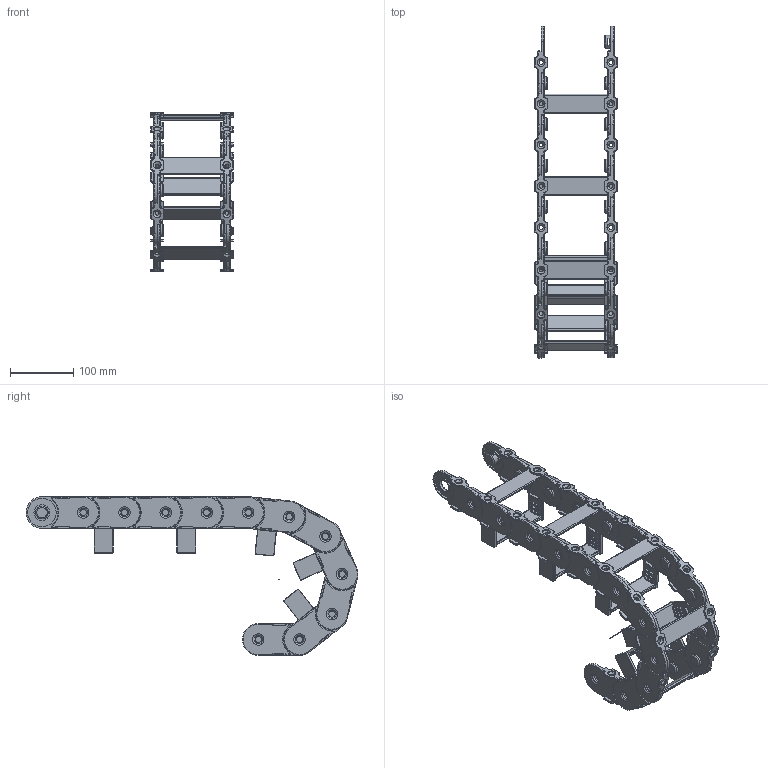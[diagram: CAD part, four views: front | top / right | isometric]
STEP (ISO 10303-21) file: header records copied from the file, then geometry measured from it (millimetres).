
FILE_DESCRIPTION((''),'2;1');
FILE_NAME('C:\Uebbing\TRACE PARTS\PKK 223\PKK 223 vereinfacht.stp','2013-05-02T08:55:50',('Uebbing'),(''),'Autodesk Inventor 10','Autodesk Inventor 10','');
FILE_SCHEMA(('AUTOMOTIVE_DESIGN { 1 0 10303 214 1 1 1 1 }'));
Length unit declared in the file: millimetre
Products named in the file (7): PKK 223 PARAMETRISCH; PKK 223 Glied vereinfacht; PKK 220 Lasche vereinfacht; 22 Steg vereinfacht; PKK 220 Aufbausteg lang vereinfacht; PKK 220 Glied ohne Steg vereinfacht; Achse
Assembly tree (20 placements, depth 3):
  PKK 223 PARAMETRISCH
    PKK 223 Glied vereinfacht  x5
      PKK 220 Lasche vereinfacht
      22 Steg vereinfacht
      PKK 220 Aufbausteg lang vereinfacht
    PKK 220 Glied ohne Steg vereinfacht  x6
      PKK 220 Lasche vereinfacht
    Achse
Bounding box: 130 x 523.06 x 250 mm (x, y, z)
Volume: 768485 mm3; surface area: 462930.7 mm2
Topology: 43 solids, 43 shells, 3275 faces, 7754 edges, 4771 vertices
Faces by surface type: cylinder 1587, plane 980, bspline 452, torus 234, cone 22
Full cylindrical faces by diameter (mm): 1 x1, 6.3 x32, 12.4 x22, 14 x22, 20.1 x22, 20.309 x22, 25 x44, 45 x44
Entity records: 6299 total; most frequent: CARTESIAN_POINT 1389, DIRECTION 1038, ORIENTED_EDGE 918, EDGE_CURVE 459, AXIS2_PLACEMENT_3D 383, VERTEX_POINT 293, VECTOR 272, LINE 272
